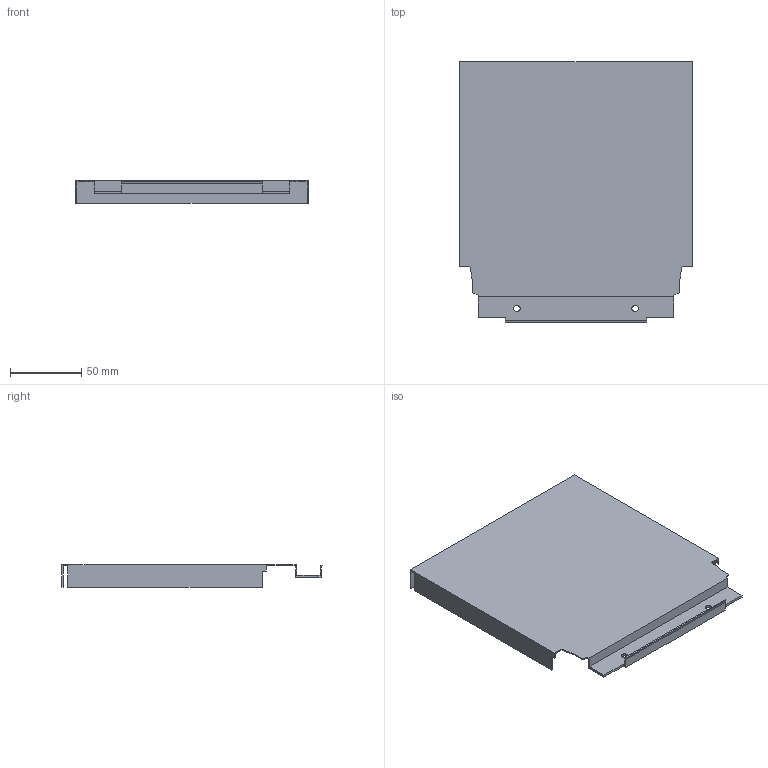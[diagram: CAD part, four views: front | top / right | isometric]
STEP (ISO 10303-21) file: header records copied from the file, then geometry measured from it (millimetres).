
FILE_DESCRIPTION (( 'STEP AP214' ), '1' );
FILE_NAME ('_DWD_XP Stahlrückwand_H182_KAB250_S18.step', '2010-07-08T12:57:51', ( 'grass' ), ( '' ), 'SwSTEP 2.0', 'SolidWorks 2010', '' );
FILE_SCHEMA (( 'AUTOMOTIVE_DESIGN' ));
Length unit declared in the file: millimetre
Products named in the file (1): _DWD_XP Stahlrückwand_H182_KAB250_S18
Bounding box: 163 x 182.49 x 16 mm (x, y, z)
Volume: 31793.5 mm3; surface area: 75159.4 mm2
Topology: 1 solids, 1 shells, 44 faces, 126 edges, 84 vertices
Faces by surface type: plane 40, cylinder 4
Entity records: 1460 total; most frequent: CARTESIAN_POINT 255, ORIENTED_EDGE 252, DIRECTION 224, EDGE_CURVE 126, VECTOR 118, LINE 118, VERTEX_POINT 84, AXIS2_PLACEMENT_3D 53
